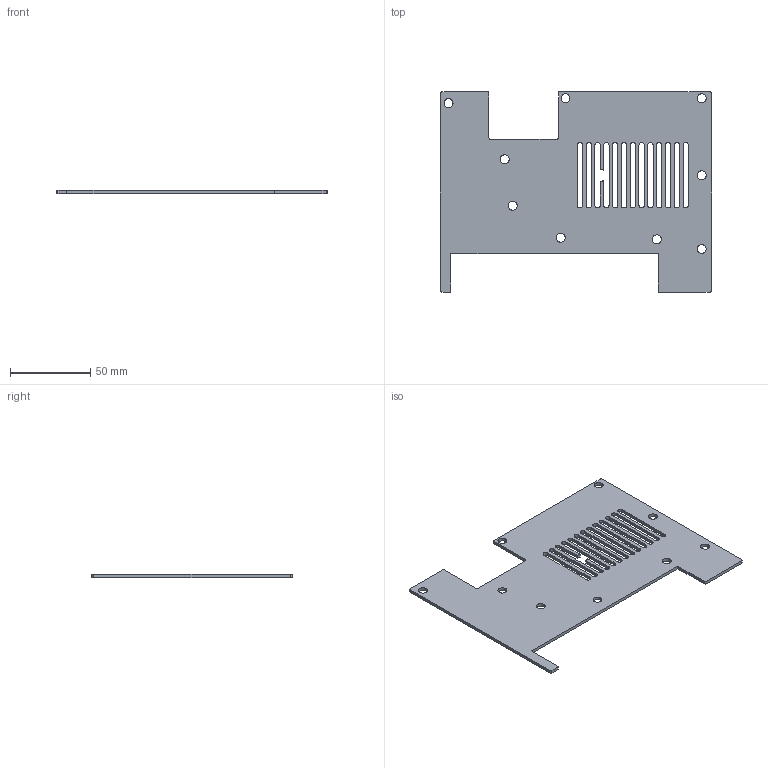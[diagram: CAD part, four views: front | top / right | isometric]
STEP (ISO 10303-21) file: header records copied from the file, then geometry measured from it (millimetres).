
FILE_DESCRIPTION(('Open CASCADE Model'),'2;1');
FILE_NAME('Open CASCADE Shape Model','2026-11-10T13:53:39',('Author'),( 'Open CASCADE'),'Open CASCADE STEP processor 7.7','Open CASCADE 7.7' ,'Unknown');
FILE_SCHEMA(('AUTOMOTIVE_DESIGN { 1 0 10303 214 1 1 1 1 }'));
Length unit declared in the file: millimetre
Products named in the file (1): Open CASCADE STEP translator 7.7 4
Bounding box: 169.3 x 124.9 x 2 mm (x, y, z)
Volume: 29607 mm3; surface area: 33512.8 mm2
Topology: 1 solids, 1 shells, 139 faces, 411 edges, 274 vertices
Faces by surface type: cylinder 70, plane 69
Full cylindrical faces by diameter (mm): 5.6 x9
Entity records: 9940 total; most frequent: CARTESIAN_POINT 2063, DIRECTION 1367, ORIENTED_EDGE 822, PCURVE 822, DEFINITIONAL_REPRESENTATION 822, LINE 693, VECTOR 693, EDGE_CURVE 411
